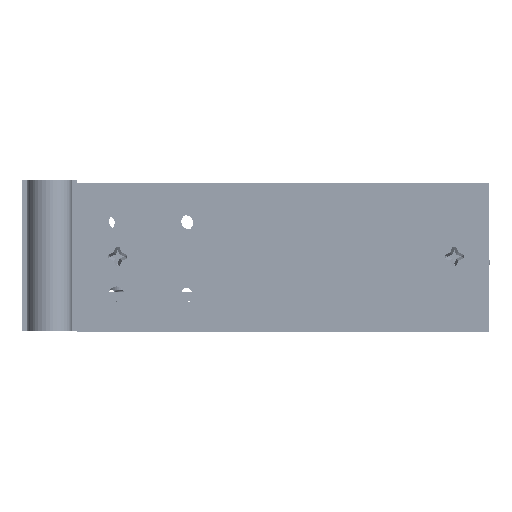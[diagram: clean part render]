
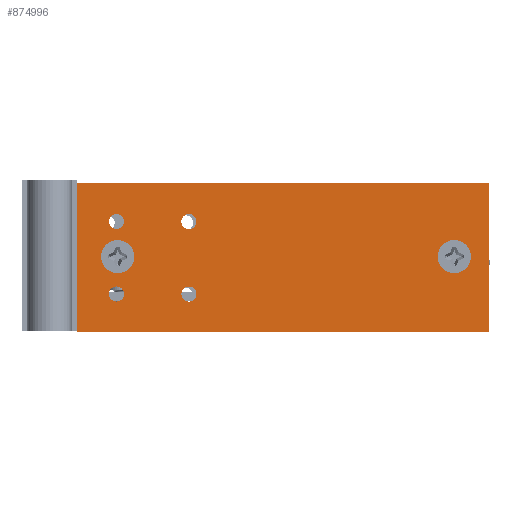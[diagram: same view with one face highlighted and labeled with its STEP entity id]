
A CAD part, left-side view. The second image highlights one B-rep face of the part: STEP entity #874996.
In plain terms, the highlighted planar face has unit normal (-1, 0, 0).
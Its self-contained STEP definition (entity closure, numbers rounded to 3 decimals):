
#874996 = ADVANCED_FACE('',(#874997,#875031,#875042,#875053,#875064,
    #875075,#875086),#875097,.F.);
#874997 = FACE_BOUND('',#874998,.F.);
#874998 = EDGE_LOOP('',(#874999,#875009,#875017,#875025));
#874999 = ORIENTED_EDGE('',*,*,#875000,.F.);
#875000 = EDGE_CURVE('',#875001,#875003,#875005,.T.);
#875001 = VERTEX_POINT('',#875002);
#875002 = CARTESIAN_POINT('',(-1.,-1.,0.));
#875003 = VERTEX_POINT('',#875004);
#875004 = CARTESIAN_POINT('',(-1.,-1.,24.7));
#875005 = LINE('',#875006,#875007);
#875006 = CARTESIAN_POINT('',(-1.,-1.,0.));
#875007 = VECTOR('',#875008,1.);
#875008 = DIRECTION('',(0.,0.,1.));
#875009 = ORIENTED_EDGE('',*,*,#875010,.T.);
#875010 = EDGE_CURVE('',#875001,#875011,#875013,.T.);
#875011 = VERTEX_POINT('',#875012);
#875012 = CARTESIAN_POINT('',(-1.,67.2,0.));
#875013 = LINE('',#875014,#875015);
#875014 = CARTESIAN_POINT('',(-1.,-1.,0.));
#875015 = VECTOR('',#875016,1.);
#875016 = DIRECTION('',(0.,1.,0.));
#875017 = ORIENTED_EDGE('',*,*,#875018,.T.);
#875018 = EDGE_CURVE('',#875011,#875019,#875021,.T.);
#875019 = VERTEX_POINT('',#875020);
#875020 = CARTESIAN_POINT('',(-1.,67.2,24.7));
#875021 = LINE('',#875022,#875023);
#875022 = CARTESIAN_POINT('',(-1.,67.2,0.));
#875023 = VECTOR('',#875024,1.);
#875024 = DIRECTION('',(0.,0.,1.));
#875025 = ORIENTED_EDGE('',*,*,#875026,.F.);
#875026 = EDGE_CURVE('',#875003,#875019,#875027,.T.);
#875027 = LINE('',#875028,#875029);
#875028 = CARTESIAN_POINT('',(-1.,-1.,24.7));
#875029 = VECTOR('',#875030,1.);
#875030 = DIRECTION('',(0.,1.,0.));
#875031 = FACE_BOUND('',#875032,.F.);
#875032 = EDGE_LOOP('',(#875033));
#875033 = ORIENTED_EDGE('',*,*,#875034,.T.);
#875034 = EDGE_CURVE('',#875035,#875035,#875037,.T.);
#875035 = VERTEX_POINT('',#875036);
#875036 = CARTESIAN_POINT('',(-1.,60.7,5.05));
#875037 = CIRCLE('',#875038,1.25);
#875038 = AXIS2_PLACEMENT_3D('',#875039,#875040,#875041);
#875039 = CARTESIAN_POINT('',(-1.,60.7,6.3));
#875040 = DIRECTION('',(-1.,-0.,0.));
#875041 = DIRECTION('',(0.,0.,-1.));
#875042 = FACE_BOUND('',#875043,.F.);
#875043 = EDGE_LOOP('',(#875044));
#875044 = ORIENTED_EDGE('',*,*,#875045,.T.);
#875045 = EDGE_CURVE('',#875046,#875046,#875048,.T.);
#875046 = VERTEX_POINT('',#875047);
#875047 = CARTESIAN_POINT('',(-1.,48.7,5.05));
#875048 = CIRCLE('',#875049,1.25);
#875049 = AXIS2_PLACEMENT_3D('',#875050,#875051,#875052);
#875050 = CARTESIAN_POINT('',(-1.,48.7,6.3));
#875051 = DIRECTION('',(-1.,-0.,0.));
#875052 = DIRECTION('',(0.,0.,-1.));
#875053 = FACE_BOUND('',#875054,.F.);
#875054 = EDGE_LOOP('',(#875055));
#875055 = ORIENTED_EDGE('',*,*,#875056,.T.);
#875056 = EDGE_CURVE('',#875057,#875057,#875059,.T.);
#875057 = VERTEX_POINT('',#875058);
#875058 = CARTESIAN_POINT('',(-1.,60.5,10.35));
#875059 = CIRCLE('',#875060,2.15);
#875060 = AXIS2_PLACEMENT_3D('',#875061,#875062,#875063);
#875061 = CARTESIAN_POINT('',(-1.,60.5,12.5));
#875062 = DIRECTION('',(-1.,-0.,-0.));
#875063 = DIRECTION('',(0.,0.,-1.));
#875064 = FACE_BOUND('',#875065,.F.);
#875065 = EDGE_LOOP('',(#875066));
#875066 = ORIENTED_EDGE('',*,*,#875067,.T.);
#875067 = EDGE_CURVE('',#875068,#875068,#875070,.T.);
#875068 = VERTEX_POINT('',#875069);
#875069 = CARTESIAN_POINT('',(-1.,60.7,17.05));
#875070 = CIRCLE('',#875071,1.25);
#875071 = AXIS2_PLACEMENT_3D('',#875072,#875073,#875074);
#875072 = CARTESIAN_POINT('',(-1.,60.7,18.3));
#875073 = DIRECTION('',(-1.,-0.,0.));
#875074 = DIRECTION('',(0.,0.,-1.));
#875075 = FACE_BOUND('',#875076,.F.);
#875076 = EDGE_LOOP('',(#875077));
#875077 = ORIENTED_EDGE('',*,*,#875078,.T.);
#875078 = EDGE_CURVE('',#875079,#875079,#875081,.T.);
#875079 = VERTEX_POINT('',#875080);
#875080 = CARTESIAN_POINT('',(-1.,48.7,17.05));
#875081 = CIRCLE('',#875082,1.25);
#875082 = AXIS2_PLACEMENT_3D('',#875083,#875084,#875085);
#875083 = CARTESIAN_POINT('',(-1.,48.7,18.3));
#875084 = DIRECTION('',(-1.,-0.,0.));
#875085 = DIRECTION('',(0.,0.,-1.));
#875086 = FACE_BOUND('',#875087,.F.);
#875087 = EDGE_LOOP('',(#875088));
#875088 = ORIENTED_EDGE('',*,*,#875089,.T.);
#875089 = EDGE_CURVE('',#875090,#875090,#875092,.T.);
#875090 = VERTEX_POINT('',#875091);
#875091 = CARTESIAN_POINT('',(-1.,4.75,10.35));
#875092 = CIRCLE('',#875093,2.15);
#875093 = AXIS2_PLACEMENT_3D('',#875094,#875095,#875096);
#875094 = CARTESIAN_POINT('',(-1.,4.75,12.5));
#875095 = DIRECTION('',(-1.,-0.,-0.));
#875096 = DIRECTION('',(0.,0.,-1.));
#875097 = PLANE('',#875098);
#875098 = AXIS2_PLACEMENT_3D('',#875099,#875100,#875101);
#875099 = CARTESIAN_POINT('',(-1.,-1.,0.));
#875100 = DIRECTION('',(1.,0.,0.));
#875101 = DIRECTION('',(0.,0.,1.));
